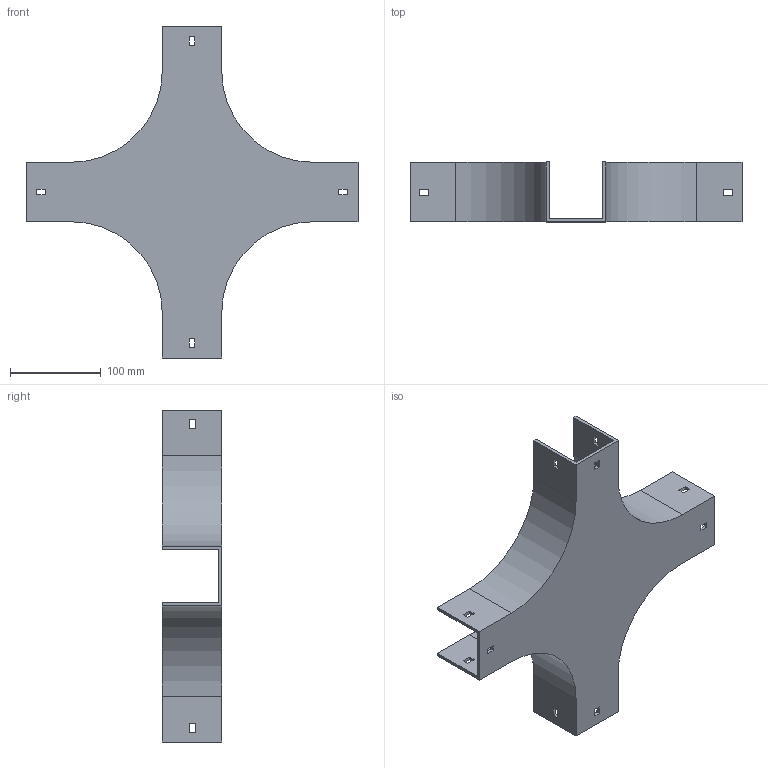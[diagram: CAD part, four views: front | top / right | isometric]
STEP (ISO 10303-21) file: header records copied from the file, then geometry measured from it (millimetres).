
FILE_DESCRIPTION (( 'STEP AP214' ), '1' );
FILE_NAME ('17B1H065.step', '2025-02-21T09:57:30', ( '' ), ( '' ), 'SwSTEP 2.0', 'SolidWorks 2023', '' );
FILE_SCHEMA (( 'AUTOMOTIVE_DESIGN' ));
Length unit declared in the file: millimetre
Products named in the file (1): 17B1H065
Bounding box: 365.5 x 65.5 x 365.5 mm (x, y, z)
Volume: 405362.3 mm3; surface area: 239273.7 mm2
Topology: 1 solids, 1 shells, 82 faces, 240 edges, 160 vertices
Faces by surface type: plane 74, cylinder 8
Entity records: 2751 total; most frequent: CARTESIAN_POINT 483, ORIENTED_EDGE 480, DIRECTION 422, EDGE_CURVE 240, VECTOR 224, LINE 224, VERTEX_POINT 160, EDGE_LOOP 106
